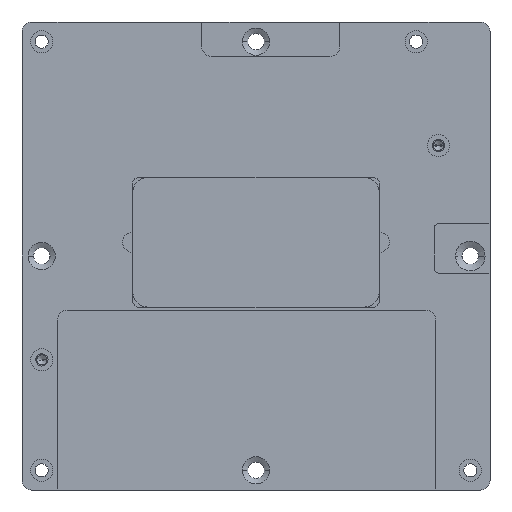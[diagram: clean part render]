
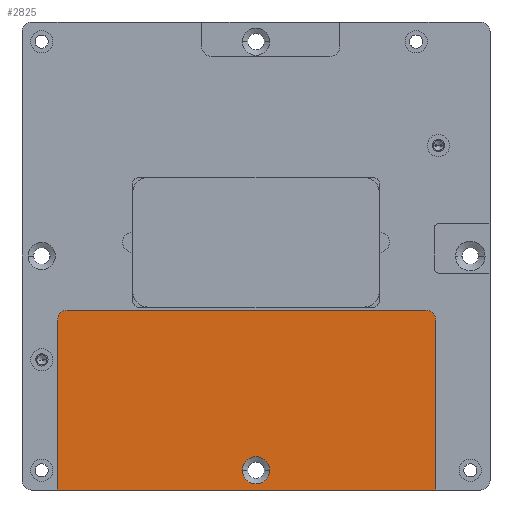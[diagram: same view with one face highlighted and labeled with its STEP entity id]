
A CAD part, front view. The second image highlights one B-rep face of the part: STEP entity #2825.
In plain terms, the highlighted planar face has unit normal (0, -1, 0).
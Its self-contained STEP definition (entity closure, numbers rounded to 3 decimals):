
#635=DIRECTION('',(1.,0.,0.));
#636=VECTOR('',#635,76.8);
#637=CARTESIAN_POINT('',(-40.3,6.,-47.5));
#638=LINE('',#637,#636);
#897=CARTESIAN_POINT('',(34.5,6.,-13.));
#898=DIRECTION('',(0.,-1.,0.));
#899=DIRECTION('',(1.,0.,0.));
#900=AXIS2_PLACEMENT_3D('',#897,#898,#899);
#902=DIRECTION('',(0.,0.,-1.));
#903=VECTOR('',#902,34.5);
#904=CARTESIAN_POINT('',(36.5,6.,-13.));
#905=LINE('',#904,#903);
#906=DIRECTION('',(0.,0.,1.));
#907=VECTOR('',#906,34.5);
#908=CARTESIAN_POINT('',(-40.3,6.,-47.5));
#909=LINE('',#908,#907);
#910=CARTESIAN_POINT('',(-38.3,6.,-13.));
#911=DIRECTION('',(0.,-1.,0.));
#912=DIRECTION('',(0.,0.,1.));
#913=AXIS2_PLACEMENT_3D('',#910,#911,#912);
#915=DIRECTION('',(-1.,0.,0.));
#916=VECTOR('',#915,72.8);
#917=CARTESIAN_POINT('',(34.5,6.,-11.));
#918=LINE('',#917,#916);
#919=CARTESIAN_POINT('',(0.,6.,-43.5));
#920=DIRECTION('',(0.,1.,0.));
#921=DIRECTION('',(1.,0.,0.));
#922=AXIS2_PLACEMENT_3D('',#919,#920,#921);
#924=CARTESIAN_POINT('',(0.,6.,-43.5));
#925=DIRECTION('',(0.,1.,0.));
#926=DIRECTION('',(-1.,0.,0.));
#927=AXIS2_PLACEMENT_3D('',#924,#925,#926);
#1282=CARTESIAN_POINT('',(-40.3,6.,-47.5));
#1284=VERTEX_POINT('',#1282);
#1286=CARTESIAN_POINT('',(36.5,6.,-47.5));
#1288=VERTEX_POINT('',#1286);
#1289=CARTESIAN_POINT('',(36.5,6.,-13.));
#1291=VERTEX_POINT('',#1289);
#1293=CARTESIAN_POINT('',(34.5,6.,-11.));
#1295=VERTEX_POINT('',#1293);
#1297=CARTESIAN_POINT('',(-38.3,6.,-11.));
#1299=VERTEX_POINT('',#1297);
#1301=CARTESIAN_POINT('',(-40.3,6.,-13.));
#1303=VERTEX_POINT('',#1301);
#1371=CARTESIAN_POINT('',(2.75,6.,-43.5));
#1372=CARTESIAN_POINT('',(-2.75,6.,-43.5));
#1373=VERTEX_POINT('',#1371);
#1374=VERTEX_POINT('',#1372);
#2806=CARTESIAN_POINT('',(0.,6.,0.));
#2807=DIRECTION('',(0.,1.,0.));
#2808=DIRECTION('',(1.,0.,0.));
#2809=AXIS2_PLACEMENT_3D('',#2806,#2807,#2808);
#2810=PLANE('',#2809);
#2811=ORIENTED_EDGE('',*,*,#2786,.F.);
#2812=ORIENTED_EDGE('',*,*,#2801,.T.);
#2813=ORIENTED_EDGE('',*,*,#2378,.F.);
#2814=ORIENTED_EDGE('',*,*,#2744,.T.);
#2815=ORIENTED_EDGE('',*,*,#2758,.F.);
#2816=ORIENTED_EDGE('',*,*,#2772,.F.);
#2817=EDGE_LOOP('',(#2811,#2812,#2813,#2814,#2815,#2816));
#2818=FACE_OUTER_BOUND('',#2817,.F.);
#2820=ORIENTED_EDGE('',*,*,#2819,.F.);
#2822=ORIENTED_EDGE('',*,*,#2821,.F.);
#2823=EDGE_LOOP('',(#2820,#2822));
#2824=FACE_BOUND('',#2823,.F.);
#2825=ADVANCED_FACE('',(#2818,#2824),#2810,.F.);
#901=CIRCLE('',#900,2.);
#914=CIRCLE('',#913,2.);
#923=CIRCLE('',#922,2.75);
#928=CIRCLE('',#927,2.75);
#2378=EDGE_CURVE('',#1284,#1288,#638,.T.);
#2744=EDGE_CURVE('',#1284,#1303,#909,.T.);
#2758=EDGE_CURVE('',#1299,#1303,#914,.T.);
#2772=EDGE_CURVE('',#1295,#1299,#918,.T.);
#2786=EDGE_CURVE('',#1291,#1295,#901,.T.);
#2801=EDGE_CURVE('',#1291,#1288,#905,.T.);
#2819=EDGE_CURVE('',#1373,#1374,#923,.T.);
#2821=EDGE_CURVE('',#1374,#1373,#928,.T.);
